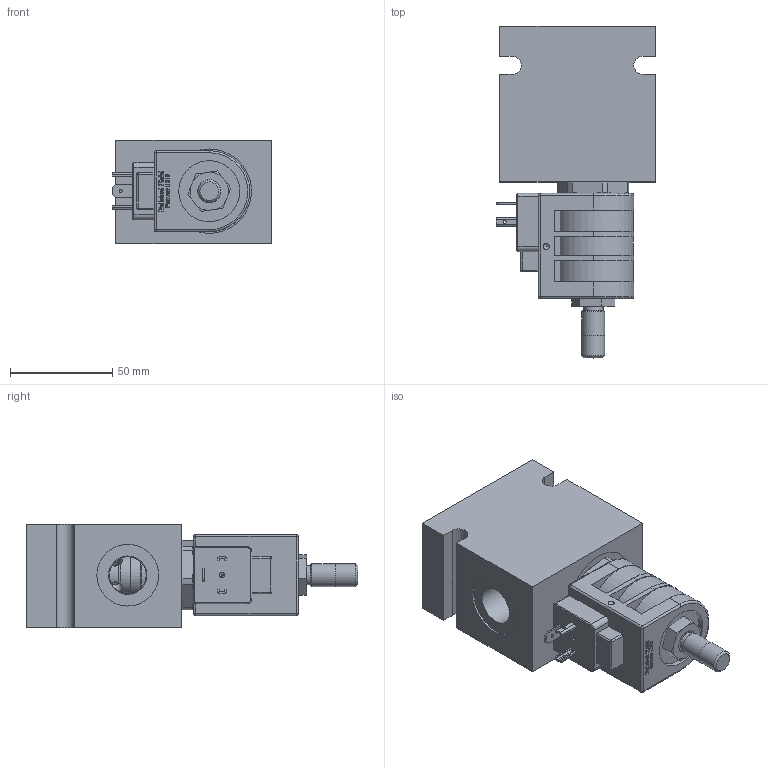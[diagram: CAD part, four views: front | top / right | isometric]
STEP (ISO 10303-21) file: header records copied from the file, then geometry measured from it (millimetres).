
FILE_DESCRIPTION( ( 'Unknown' ), '1' );
FILE_NAME( 'G:/Graphic Design/Graphic Design 2/Data Sheets/SOLENOID OPERATED VALVES/4_STEP/2W2P Normally Closed/TT-S2A0M-C2.stp', 'Unknown', ( 'Unknown' ), ( 'Unknown' ), 'PSStep 15.0.49', 'Unknown', ' ' );
FILE_SCHEMA( ( 'AUTOMOTIVE_DESIGN { 1 0 10303 214 1 1 1 1 }' ) );
Length unit declared in the file: millimetre
Products named in the file (15): D-DHC24; DHC-Disc; PT-EL-HC-TerminalConnectors; DHC-Body; D-TT-S2A-0M; D-TT-S2C-TOP O RING; D-TT-S2C-BOTTOM O RING; D-TT-S2C-BK RING; Delta_1_2_nut1; Assem1; B-DHTC2
Assembly tree (15 placements, depth 3):
  Assem1
    B-DHTC2
    D-TT-S2A-0M
      D-TT-S2A-0M
      D-TT-S2C-TOP O RING
      D-TT-S2C-BOTTOM O RING
      D-TT-S2C-BK RING
      Delta_1_2_nut1
    D-DHC24
      DHC-Disc  x2
      PT-EL-HC-TerminalConnectors
      PT-EL-HC-TerminalConnectors
      PT-EL-HC-TerminalConnectors
      PT-EL-HC-TerminalConnectors
      DHC-Body
Bounding box: 77.9 x 162.2 x 50.8 mm (x, y, z)
Volume: 355857.3 mm3; surface area: 68600.9 mm2
Topology: 13 solids, 13 shells, 570 faces, 1452 edges, 939 vertices
Faces by surface type: plane 287, extrusion 118, cylinder 100, cone 50, torus 9, sphere 6
Full cylindrical faces by diameter (mm): 1 x1, 1.5 x3, 2.5 x1, 3 x2, 6.75 x4, 9.5 x1, 11.113 x2, 12.7 x4, 13 x1, 18 x1, 18.8 x4, 18.9 x1, 19.122 x1, 19.3 x1, 20 x2, 22 x1, 23.7 x1, 23.75 x2, 23.825 x1, 24.004 x1, 25.4 x1, 25.463 x2, 26.988 x1, 29.85 x2, 30.17 x2, 32 x2, 41.275 x1
Entity records: 22814 total; most frequent: CARTESIAN_POINT 5170, ORIENTED_EDGE 2682, DIRECTION 2320, EDGE_CURVE 1341, VERTEX_POINT 913, VECTOR 902, LINE 784, AXIS2_PLACEMENT_3D 709
